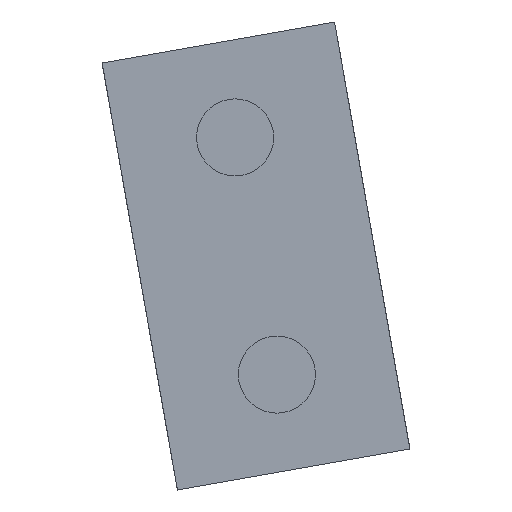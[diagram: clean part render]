
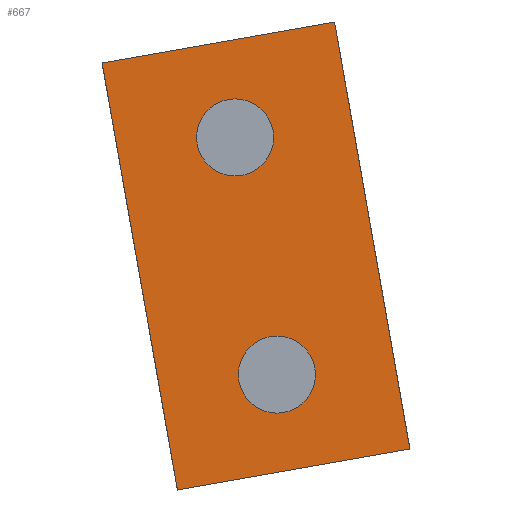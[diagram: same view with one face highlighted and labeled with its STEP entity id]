
A CAD part, left-side view. The second image highlights one B-rep face of the part: STEP entity #667.
In plain terms, the highlighted planar face has unit normal (-1, 0, 0).
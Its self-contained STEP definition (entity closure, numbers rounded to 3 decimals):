
#20=FACE_BOUND('',#114,.T.);
#21=FACE_BOUND('',#115,.T.);
#39=PLANE('',#733);
#71=FACE_OUTER_BOUND('',#113,.T.);
#113=EDGE_LOOP('',(#534,#535,#536,#537));
#114=EDGE_LOOP('',(#538));
#115=EDGE_LOOP('',(#539));
#177=LINE('',#1064,#246);
#178=LINE('',#1066,#247);
#179=LINE('',#1068,#248);
#180=LINE('',#1069,#249);
#246=VECTOR('',#867,10.);
#247=VECTOR('',#868,10.);
#248=VECTOR('',#869,10.);
#249=VECTOR('',#870,10.);
#286=CIRCLE('',#714,1.6);
#288=CIRCLE('',#718,1.6);
#311=VERTEX_POINT('',#984);
#318=VERTEX_POINT('',#1001);
#337=VERTEX_POINT('',#1062);
#338=VERTEX_POINT('',#1063);
#339=VERTEX_POINT('',#1065);
#340=VERTEX_POINT('',#1067);
#375=EDGE_CURVE('',#311,#311,#286,.T.);
#383=EDGE_CURVE('',#318,#318,#288,.T.);
#413=EDGE_CURVE('',#337,#338,#177,.T.);
#414=EDGE_CURVE('',#339,#338,#178,.T.);
#415=EDGE_CURVE('',#339,#340,#179,.T.);
#416=EDGE_CURVE('',#337,#340,#180,.T.);
#534=ORIENTED_EDGE('',*,*,#413,.T.);
#535=ORIENTED_EDGE('',*,*,#414,.F.);
#536=ORIENTED_EDGE('',*,*,#415,.T.);
#537=ORIENTED_EDGE('',*,*,#416,.F.);
#538=ORIENTED_EDGE('',*,*,#375,.T.);
#539=ORIENTED_EDGE('',*,*,#383,.T.);
#667=ADVANCED_FACE('',(#71,#20,#21),#39,.F.);
#714=AXIS2_PLACEMENT_3D('',#985,#795,#796);
#718=AXIS2_PLACEMENT_3D('',#1002,#809,#810);
#733=AXIS2_PLACEMENT_3D('',#1061,#865,#866);
#795=DIRECTION('center_axis',(1.,0.,0.));
#796=DIRECTION('ref_axis',(0.,0.985,-0.174));
#809=DIRECTION('center_axis',(1.,0.,0.));
#810=DIRECTION('ref_axis',(0.,0.985,-0.174));
#865=DIRECTION('center_axis',(1.,0.,0.));
#866=DIRECTION('ref_axis',(0.,-0.174,-0.985));
#867=DIRECTION('',(0.,-0.174,-0.985));
#868=DIRECTION('',(0.,0.985,-0.174));
#869=DIRECTION('',(0.,0.174,0.985));
#870=DIRECTION('',(0.,-0.985,0.174));
#984=CARTESIAN_POINT('',(41.226,-317.413,47.663));
#985=CARTESIAN_POINT('Origin',(41.226,-315.837,47.386));
#1001=CARTESIAN_POINT('',(41.226,-319.149,37.815));
#1002=CARTESIAN_POINT('Origin',(41.226,-317.573,37.538));
#1061=CARTESIAN_POINT('Origin',(41.226,-296.016,64.199));
#1062=CARTESIAN_POINT('',(41.226,-310.317,50.474));
#1063=CARTESIAN_POINT('',(41.226,-313.442,32.747));
#1064=CARTESIAN_POINT('',(41.226,-312.227,39.641));
#1065=CARTESIAN_POINT('',(41.226,-323.094,34.449));
#1066=CARTESIAN_POINT('',(41.226,-293.549,29.24));
#1067=CARTESIAN_POINT('',(41.226,-319.968,52.176));
#1068=CARTESIAN_POINT('',(41.226,-321.878,41.343));
#1069=CARTESIAN_POINT('',(41.226,-290.424,46.966));
